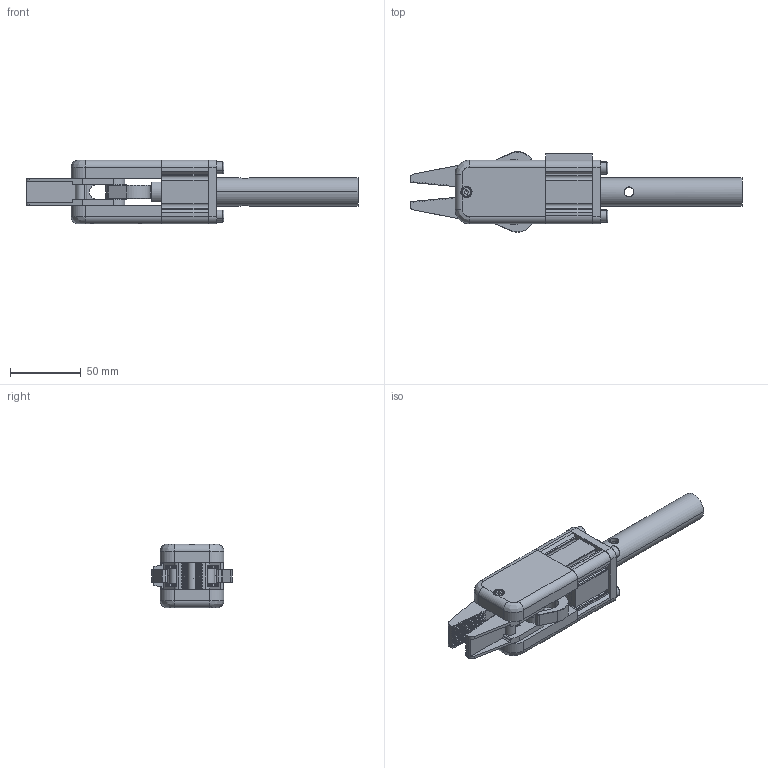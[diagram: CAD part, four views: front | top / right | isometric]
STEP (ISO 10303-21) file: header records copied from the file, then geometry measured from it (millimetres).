
FILE_DESCRIPTION (( 'STEP AP214' ), '1' );
FILE_NAME ('GRP32A.STEP', '2019-11-19T09:25:27', ( '微软用户' ), ( '微软中国' ), 'SwSTEP 2.0', 'SolidWorks 2016', '' );
FILE_SCHEMA (( 'AUTOMOTIVE_DESIGN' ));
Length unit declared in the file: millimetre
Products named in the file (1): GRP32A
Bounding box: 234.93 x 56.97 x 45 mm (x, y, z)
Volume: 152971.2 mm3; surface area: 86165.1 mm2
Topology: 24 solids, 24 shells, 887 faces, 2199 edges, 1365 vertices
Faces by surface type: plane 435, cylinder 261, cone 177, bspline 14
Entity records: 36659 total; most frequent: CARTESIAN_POINT 5186, DIRECTION 4621, ORIENTED_EDGE 4346, EDGE_CURVE 2173, AXIS2_PLACEMENT_3D 1618, LINE 1385, VECTOR 1385, VERTEX_POINT 1365
